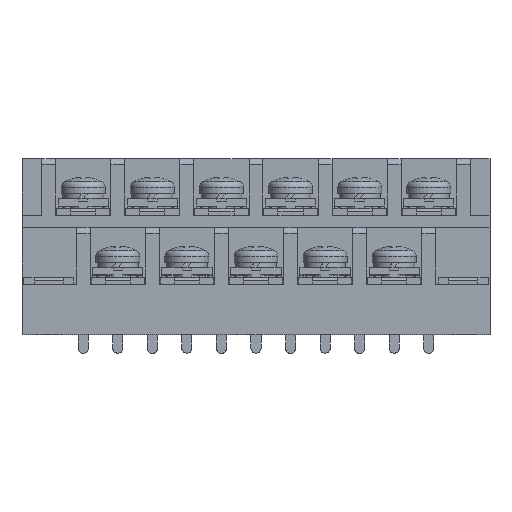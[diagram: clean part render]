
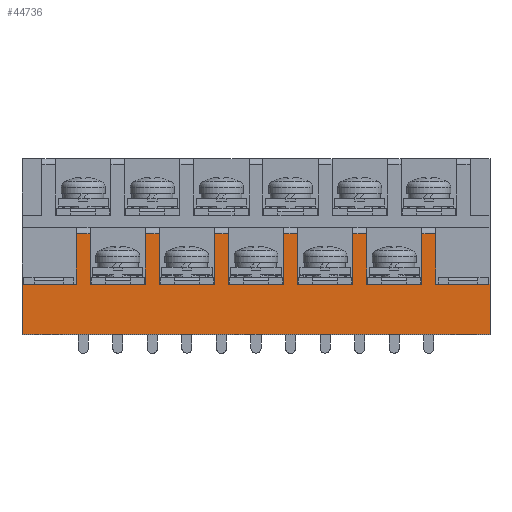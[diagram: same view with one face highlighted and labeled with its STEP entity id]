
A CAD part, top view. The second image highlights one B-rep face of the part: STEP entity #44736.
In plain terms, the highlighted planar face has unit normal (0, 0, 1).
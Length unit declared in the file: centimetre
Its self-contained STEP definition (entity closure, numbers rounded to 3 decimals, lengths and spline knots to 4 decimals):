
#1824=VECTOR('',#46882,1.);
#1827=VECTOR('',#46888,1.);
#1870=VECTOR('',#46970,1.);
#1904=VECTOR('',#47006,1.);
#1955=VECTOR('',#47097,1.);
#2008=VECTOR('',#47193,1.);
#2010=VECTOR('',#47196,1.);
#2366=VECTOR('',#47674,1.);
#2537=VECTOR('',#48046,1.);
#2539=VECTOR('',#48052,1.);
#2541=VECTOR('',#48055,1.);
#2552=VECTOR('',#48075,1.);
#2714=VECTOR('',#48424,1.);
#2716=VECTOR('',#48430,1.);
#2718=VECTOR('',#48433,1.);
#2729=VECTOR('',#48453,1.);
#2891=VECTOR('',#48802,1.);
#2893=VECTOR('',#48808,1.);
#2895=VECTOR('',#48811,1.);
#2906=VECTOR('',#48831,1.);
#3068=VECTOR('',#49180,1.);
#3070=VECTOR('',#49186,1.);
#3076=VECTOR('',#49198,1.);
#3735=VECTOR('',#50600,1.);
#3881=VECTOR('',#50938,1.);
#3882=VECTOR('',#50940,1.);
#3883=VECTOR('',#50941,1.);
#3884=VECTOR('',#50942,1.);
#6809=LINE('',#55312,#1824);
#6812=LINE('',#55320,#1827);
#6855=LINE('',#55427,#1870);
#6889=LINE('',#55496,#1904);
#6940=LINE('',#55619,#1955);
#6993=LINE('',#55746,#2008);
#6995=LINE('',#55751,#2010);
#7351=LINE('',#57118,#2366);
#7522=LINE('',#57624,#2537);
#7524=LINE('',#57630,#2539);
#7526=LINE('',#57635,#2541);
#7537=LINE('',#57659,#2552);
#7699=LINE('',#58139,#2714);
#7701=LINE('',#58145,#2716);
#7703=LINE('',#58150,#2718);
#7714=LINE('',#58174,#2729);
#7876=LINE('',#58654,#2891);
#7878=LINE('',#58660,#2893);
#7880=LINE('',#58665,#2895);
#7891=LINE('',#58689,#2906);
#8053=LINE('',#59169,#3068);
#8055=LINE('',#59175,#3070);
#8061=LINE('',#59188,#3076);
#8720=LINE('',#61121,#3735);
#8866=LINE('',#61571,#3881);
#8867=LINE('',#61573,#3882);
#8868=LINE('',#61574,#3883);
#8869=LINE('',#61575,#3884);
#12418=PLANE('',#73330);
#13995=VERTEX_POINT('',#55311);
#13996=VERTEX_POINT('',#55313);
#13998=VERTEX_POINT('',#55319);
#14035=VERTEX_POINT('',#55426);
#14036=VERTEX_POINT('',#55428);
#14069=VERTEX_POINT('',#55497);
#14109=VERTEX_POINT('',#55614);
#14111=VERTEX_POINT('',#55618);
#14154=VERTEX_POINT('',#55745);
#14155=VERTEX_POINT('',#55749);
#14461=VERTEX_POINT('',#57117);
#14616=VERTEX_POINT('',#57617);
#14619=VERTEX_POINT('',#57623);
#14621=VERTEX_POINT('',#57629);
#14622=VERTEX_POINT('',#57633);
#14778=VERTEX_POINT('',#58132);
#14781=VERTEX_POINT('',#58138);
#14783=VERTEX_POINT('',#58144);
#14784=VERTEX_POINT('',#58148);
#14940=VERTEX_POINT('',#58647);
#14943=VERTEX_POINT('',#58653);
#14945=VERTEX_POINT('',#58659);
#14946=VERTEX_POINT('',#58663);
#15102=VERTEX_POINT('',#59162);
#15105=VERTEX_POINT('',#59168);
#15107=VERTEX_POINT('',#59174);
#15717=VERTEX_POINT('',#61120);
#15851=VERTEX_POINT('',#61568);
#18620=EDGE_CURVE('',#13995,#13996,#6809,.T.);
#18624=EDGE_CURVE('',#13995,#13998,#6812,.T.);
#18676=EDGE_CURVE('',#14035,#14036,#6855,.T.);
#18710=EDGE_CURVE('',#14036,#14069,#6889,.T.);
#18773=EDGE_CURVE('',#14111,#14109,#6940,.T.);
#18839=EDGE_CURVE('',#14154,#13998,#6993,.T.);
#18841=EDGE_CURVE('',#14155,#14154,#6995,.T.);
#19298=EDGE_CURVE('',#14035,#14461,#7351,.T.);
#19541=EDGE_CURVE('',#14616,#14619,#7522,.T.);
#19544=EDGE_CURVE('',#14621,#14619,#7524,.T.);
#19546=EDGE_CURVE('',#14622,#14621,#7526,.T.);
#19559=EDGE_CURVE('',#14616,#14155,#7537,.T.);
#19787=EDGE_CURVE('',#14778,#14781,#7699,.T.);
#19790=EDGE_CURVE('',#14783,#14781,#7701,.T.);
#19792=EDGE_CURVE('',#14784,#14783,#7703,.T.);
#19805=EDGE_CURVE('',#14778,#14622,#7714,.T.);
#20033=EDGE_CURVE('',#14940,#14943,#7876,.T.);
#20036=EDGE_CURVE('',#14945,#14943,#7878,.T.);
#20038=EDGE_CURVE('',#14946,#14945,#7880,.T.);
#20051=EDGE_CURVE('',#14940,#14784,#7891,.T.);
#20279=EDGE_CURVE('',#15102,#15105,#8053,.T.);
#20282=EDGE_CURVE('',#15107,#15105,#8055,.T.);
#20289=EDGE_CURVE('',#15102,#14946,#8061,.T.);
#21212=EDGE_CURVE('',#14461,#15717,#8720,.T.);
#21425=EDGE_CURVE('',#14069,#15851,#8866,.T.);
#21426=EDGE_CURVE('',#15717,#13996,#8867,.T.);
#21427=EDGE_CURVE('',#14109,#15107,#8868,.T.);
#21428=EDGE_CURVE('',#14111,#15851,#8869,.T.);
#31208=ORIENTED_EDGE('',*,*,#21212,.T.);
#31209=ORIENTED_EDGE('',*,*,#21426,.T.);
#31210=ORIENTED_EDGE('',*,*,#18620,.F.);
#31211=ORIENTED_EDGE('',*,*,#18624,.T.);
#31212=ORIENTED_EDGE('',*,*,#18839,.F.);
#31213=ORIENTED_EDGE('',*,*,#18841,.F.);
#31214=ORIENTED_EDGE('',*,*,#19559,.F.);
#31215=ORIENTED_EDGE('',*,*,#19541,.T.);
#31216=ORIENTED_EDGE('',*,*,#19544,.F.);
#31217=ORIENTED_EDGE('',*,*,#19546,.F.);
#31218=ORIENTED_EDGE('',*,*,#19805,.F.);
#31219=ORIENTED_EDGE('',*,*,#19787,.T.);
#31220=ORIENTED_EDGE('',*,*,#19790,.F.);
#31221=ORIENTED_EDGE('',*,*,#19792,.F.);
#31222=ORIENTED_EDGE('',*,*,#20051,.F.);
#31223=ORIENTED_EDGE('',*,*,#20033,.T.);
#31224=ORIENTED_EDGE('',*,*,#20036,.F.);
#31225=ORIENTED_EDGE('',*,*,#20038,.F.);
#31226=ORIENTED_EDGE('',*,*,#20289,.F.);
#31227=ORIENTED_EDGE('',*,*,#20279,.T.);
#31228=ORIENTED_EDGE('',*,*,#20282,.F.);
#31229=ORIENTED_EDGE('',*,*,#21427,.F.);
#31230=ORIENTED_EDGE('',*,*,#18773,.F.);
#31231=ORIENTED_EDGE('',*,*,#21428,.T.);
#31232=ORIENTED_EDGE('',*,*,#21425,.F.);
#31233=ORIENTED_EDGE('',*,*,#18710,.F.);
#31234=ORIENTED_EDGE('',*,*,#18676,.F.);
#31235=ORIENTED_EDGE('',*,*,#19298,.T.);
#39397=EDGE_LOOP('',(#31208,#31209,#31210,#31211,#31212,#31213,#31214,#31215,
#31216,#31217,#31218,#31219,#31220,#31221,#31222,#31223,#31224,#31225,#31226,
#31227,#31228,#31229,#31230,#31231,#31232,#31233,#31234,#31235));
#42143=FACE_BOUND('',#39397,.T.);
#44736=ADVANCED_FACE('',(#42143),#12418,.T.);
#46882=DIRECTION('',(1.,0.,0.));
#46888=DIRECTION('',(0.,1.,0.));
#46970=DIRECTION('',(1.,0.,0.));
#47006=DIRECTION('',(0.,1.,0.));
#47097=DIRECTION('',(1.,0.,0.));
#47193=DIRECTION('',(1.,0.,0.));
#47196=DIRECTION('',(0.,1.,0.));
#47674=DIRECTION('',(0.,-1.,0.));
#48046=DIRECTION('',(0.,1.,0.));
#48052=DIRECTION('',(1.,0.,0.));
#48055=DIRECTION('',(0.,1.,0.));
#48075=DIRECTION('',(1.,0.,0.));
#48424=DIRECTION('',(0.,1.,0.));
#48430=DIRECTION('',(1.,0.,0.));
#48433=DIRECTION('',(0.,1.,0.));
#48453=DIRECTION('',(1.,0.,0.));
#48802=DIRECTION('',(0.,1.,0.));
#48808=DIRECTION('',(1.,0.,0.));
#48811=DIRECTION('',(0.,1.,0.));
#48831=DIRECTION('',(1.,0.,0.));
#49180=DIRECTION('',(0.,1.,0.));
#49186=DIRECTION('',(1.,0.,0.));
#49198=DIRECTION('',(1.,0.,0.));
#50600=DIRECTION('',(1.,0.,0.));
#50938=DIRECTION('',(1.,0.,0.));
#50939=DIRECTION('',(0.,0.,1.));
#50940=DIRECTION('',(0.,1.,0.));
#50941=DIRECTION('',(0.,1.,0.));
#50942=DIRECTION('',(0.,1.,0.));
#55311=CARTESIAN_POINT('',(3.41,-1.245,1.75));
#55312=CARTESIAN_POINT('',(3.41,-1.245,1.75));
#55313=CARTESIAN_POINT('',(4.275,-1.245,1.75));
#55319=CARTESIAN_POINT('',(3.41,-0.445,1.75));
#55320=CARTESIAN_POINT('',(3.41,-2.045,1.75));
#55426=CARTESIAN_POINT('',(-3.175,-1.245,1.75));
#55427=CARTESIAN_POINT('',(-3.175,-1.245,1.75));
#55428=CARTESIAN_POINT('',(-2.31,-1.245,1.75));
#55496=CARTESIAN_POINT('',(-2.31,-2.045,1.75));
#55497=CARTESIAN_POINT('',(-2.31,-0.445,1.75));
#55614=CARTESIAN_POINT('',(-1.21,-1.245,1.75));
#55618=CARTESIAN_POINT('',(-2.09,-1.245,1.75));
#55619=CARTESIAN_POINT('',(-2.09,-1.245,1.75));
#55745=CARTESIAN_POINT('',(3.19,-0.445,1.75));
#55746=CARTESIAN_POINT('',(3.19,-0.445,1.75));
#55749=CARTESIAN_POINT('',(3.19,-1.245,1.75));
#55751=CARTESIAN_POINT('',(3.19,-2.045,1.75));
#57117=CARTESIAN_POINT('',(-3.175,-2.045,1.75));
#57118=CARTESIAN_POINT('',(-3.175,-1.245,1.75));
#57617=CARTESIAN_POINT('',(2.31,-1.245,1.75));
#57623=CARTESIAN_POINT('',(2.31,-0.445,1.75));
#57624=CARTESIAN_POINT('',(2.31,-2.045,1.75));
#57629=CARTESIAN_POINT('',(2.09,-0.445,1.75));
#57630=CARTESIAN_POINT('',(2.09,-0.445,1.75));
#57633=CARTESIAN_POINT('',(2.09,-1.245,1.75));
#57635=CARTESIAN_POINT('',(2.09,-2.045,1.75));
#57659=CARTESIAN_POINT('',(2.31,-1.245,1.75));
#58132=CARTESIAN_POINT('',(1.21,-1.245,1.75));
#58138=CARTESIAN_POINT('',(1.21,-0.445,1.75));
#58139=CARTESIAN_POINT('',(1.21,-2.045,1.75));
#58144=CARTESIAN_POINT('',(0.99,-0.445,1.75));
#58145=CARTESIAN_POINT('',(0.99,-0.445,1.75));
#58148=CARTESIAN_POINT('',(0.99,-1.245,1.75));
#58150=CARTESIAN_POINT('',(0.99,-2.045,1.75));
#58174=CARTESIAN_POINT('',(1.21,-1.245,1.75));
#58647=CARTESIAN_POINT('',(0.11,-1.245,1.75));
#58653=CARTESIAN_POINT('',(0.11,-0.445,1.75));
#58654=CARTESIAN_POINT('',(0.11,-2.045,1.75));
#58659=CARTESIAN_POINT('',(-0.11,-0.445,1.75));
#58660=CARTESIAN_POINT('',(-0.11,-0.445,1.75));
#58663=CARTESIAN_POINT('',(-0.11,-1.245,1.75));
#58665=CARTESIAN_POINT('',(-0.11,-2.045,1.75));
#58689=CARTESIAN_POINT('',(0.11,-1.245,1.75));
#59162=CARTESIAN_POINT('',(-0.99,-1.245,1.75));
#59168=CARTESIAN_POINT('',(-0.99,-0.445,1.75));
#59169=CARTESIAN_POINT('',(-0.99,-2.045,1.75));
#59174=CARTESIAN_POINT('',(-1.21,-0.445,1.75));
#59175=CARTESIAN_POINT('',(-1.21,-0.445,1.75));
#59188=CARTESIAN_POINT('',(-0.99,-1.245,1.75));
#61120=CARTESIAN_POINT('',(4.275,-2.045,1.75));
#61121=CARTESIAN_POINT('',(-2.31,-2.045,1.75));
#61568=CARTESIAN_POINT('',(-2.09,-0.445,1.75));
#61571=CARTESIAN_POINT('',(-2.31,-0.445,1.75));
#61572=CARTESIAN_POINT('',(-2.31,-1.245,1.75));
#61573=CARTESIAN_POINT('',(4.275,-1.245,1.75));
#61574=CARTESIAN_POINT('',(-1.21,-2.045,1.75));
#61575=CARTESIAN_POINT('',(-2.09,-2.045,1.75));
#73330=AXIS2_PLACEMENT_3D('',#61572,#50939,$);
